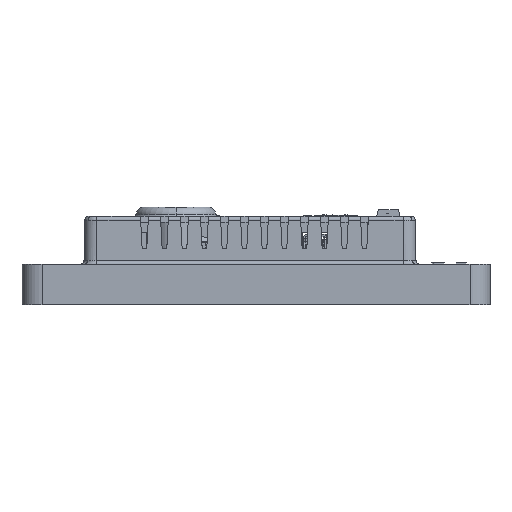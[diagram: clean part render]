
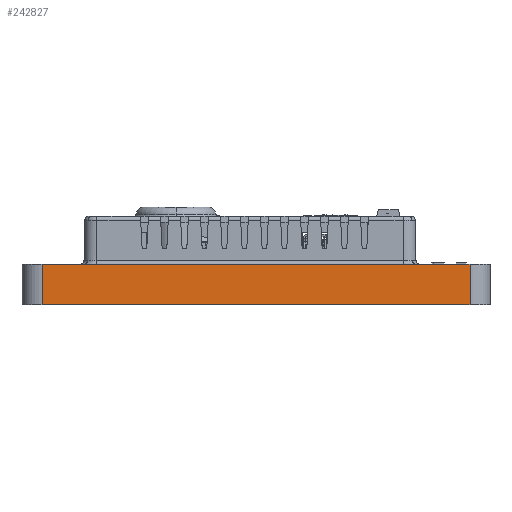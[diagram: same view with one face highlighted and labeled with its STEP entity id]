
A CAD part, left-side view. The second image highlights one B-rep face of the part: STEP entity #242827.
In plain terms, the highlighted planar face has unit normal (-1, 0, 0).
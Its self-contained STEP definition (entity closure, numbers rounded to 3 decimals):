
#9301 = EDGE_CURVE ( 'NONE', #69153, #141233, #181185, .T. ) ;
#15516 = EDGE_CURVE ( 'NONE', #111345, #141233, #250123, .T. ) ;
#29147 = VECTOR ( 'NONE', #122703, 1000. ) ;
#31024 = ORIENTED_EDGE ( 'NONE', *, *, #15516, .T. ) ;
#37823 = LINE ( 'NONE', #145651, #142750 ) ;
#45144 = FACE_OUTER_BOUND ( 'NONE', #247205, .T. ) ;
#45918 = CARTESIAN_POINT ( 'NONE',  ( -98., 58.5, 10.2 ) ) ;
#66133 = ORIENTED_EDGE ( 'NONE', *, *, #79869, .T. ) ;
#67381 = CARTESIAN_POINT ( 'NONE',  ( -98., 58.5, 2. ) ) ;
#69153 = VERTEX_POINT ( 'NONE', #244938 ) ;
#76518 = AXIS2_PLACEMENT_3D ( 'NONE', #67381, #205310, #87153 ) ;
#79869 = EDGE_CURVE ( 'NONE', #69153, #80652, #37823, .T. ) ;
#80652 = VERTEX_POINT ( 'NONE', #160462 ) ;
#82560 = VECTOR ( 'NONE', #203628, 1000. ) ;
#87153 = DIRECTION ( 'NONE',  ( 0., 1., 0. ) ) ;
#93672 = ORIENTED_EDGE ( 'NONE', *, *, #9301, .F. ) ;
#102853 = CARTESIAN_POINT ( 'NONE',  ( -98., 58.5, 0. ) ) ;
#106177 = PLANE ( 'NONE',  #76518 ) ;
#111345 = VERTEX_POINT ( 'NONE', #233376 ) ;
#122703 = DIRECTION ( 'NONE',  ( 0., -1., 0. ) ) ;
#126140 = CARTESIAN_POINT ( 'NONE',  ( -98., -53.5, 10.2 ) ) ;
#134067 = LINE ( 'NONE', #102853, #29147 ) ;
#139063 = VECTOR ( 'NONE', #220327, 1000. ) ;
#141233 = VERTEX_POINT ( 'NONE', #126140 ) ;
#142750 = VECTOR ( 'NONE', #243871, 1000. ) ;
#145651 = CARTESIAN_POINT ( 'NONE',  ( -98., 53.5, 2. ) ) ;
#160462 = CARTESIAN_POINT ( 'NONE',  ( -98., 53.5, 0. ) ) ;
#181185 = LINE ( 'NONE', #45918, #82560 ) ;
#188867 = EDGE_CURVE ( 'NONE', #80652, #111345, #134067, .T. ) ;
#203628 = DIRECTION ( 'NONE',  ( 0., -1., 0. ) ) ;
#205310 = DIRECTION ( 'NONE',  ( 1., 0., 0. ) ) ;
#219453 = CARTESIAN_POINT ( 'NONE',  ( -98., -53.5, 2. ) ) ;
#220327 = DIRECTION ( 'NONE',  ( 0., 0., 1. ) ) ;
#233376 = CARTESIAN_POINT ( 'NONE',  ( -98., -53.5, 0. ) ) ;
#235091 = ORIENTED_EDGE ( 'NONE', *, *, #188867, .T. ) ;
#242827 = ADVANCED_FACE ( 'NONE', ( #45144 ), #106177, .F. ) ;
#243871 = DIRECTION ( 'NONE',  ( 0., 0., -1. ) ) ;
#244938 = CARTESIAN_POINT ( 'NONE',  ( -98., 53.5, 10.2 ) ) ;
#247205 = EDGE_LOOP ( 'NONE', ( #235091, #31024, #93672, #66133 ) ) ;
#250123 = LINE ( 'NONE', #219453, #139063 ) ;
